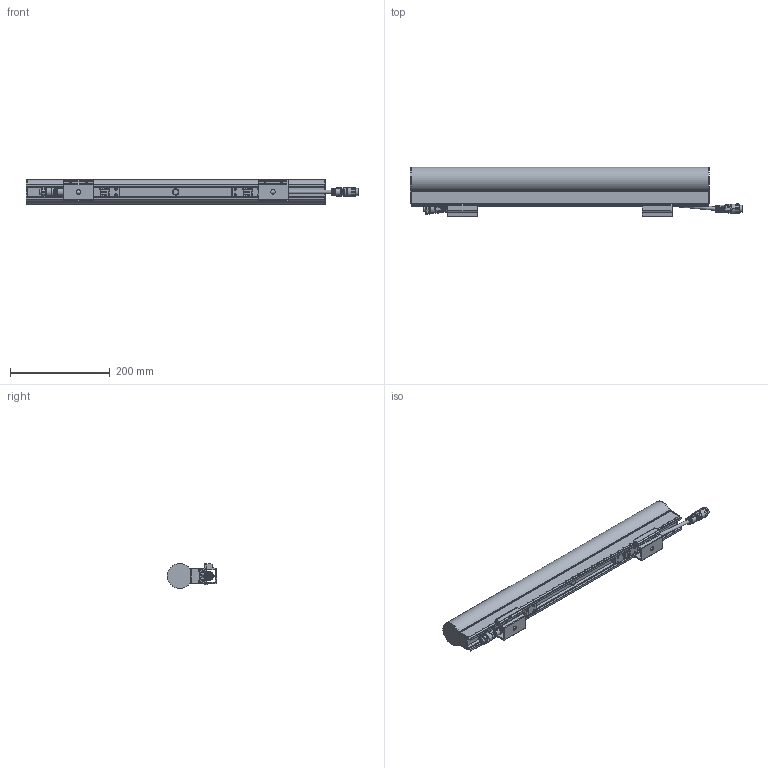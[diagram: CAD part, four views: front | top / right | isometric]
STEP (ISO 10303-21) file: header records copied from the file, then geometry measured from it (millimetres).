
FILE_DESCRIPTION (( 'STEP AP214' ), '1' );
FILE_NAME ('E series 2 Tube L600.STEP', '2025-11-24T13:40:27', ( '' ), ( '' ), 'SwSTEP 2.0', 'SolidWorks 2025', '' );
FILE_SCHEMA (( 'AUTOMOTIVE_DESIGN' ));
Length unit declared in the file: millimetre
Products named in the file (12): E series 2 with round cover body_600mm; Counter sunk screw torx_M3x16; M16 5p Female; Part2^E series 2; D & E Series 2 breathing valve; E series 2 with dome cover body and bare config_Bare 600mm; E series 2 Tube L600; Part1^E series 2; M16 5p Male; Counter sunk screw torx_M2.5x16; E series 2 mounting clip top; E series 2 mounting clip bottom
Assembly tree (27 placements, depth 2):
  E series 2 Tube L600
    E series 2 with dome cover body and bare config_Bare 600mm
    Counter sunk screw torx_M2.5x16  x12
    E series 2 mounting clip bottom  x2
    E series 2 mounting clip top  x2
    Counter sunk screw torx_M3x16  x4
    E series 2 with round cover body_600mm
    M16 5p Female
    Part2^E series 2
    M16 5p Male
    Part1^E series 2
    D & E Series 2 breathing valve
Bounding box: 665.55 x 98.61 x 49.96 mm (x, y, z)
Volume: 1613659.3 mm3; surface area: 230716.3 mm2
Topology: 33 solids, 36 shells, 1772 faces, 4411 edges, 2780 vertices
Faces by surface type: cylinder 742, plane 615, torus 141, bspline 130, cone 118, sphere 26
Full cylindrical faces by diameter (mm): 2.4 x2, 2.5 x12, 3 x4, 4.5 x12, 5.81 x4, 9.2 x1, 11.1 x1, 14.25 x1, 14.3 x1, 18 x1
Entity records: 61679 total; most frequent: CARTESIAN_POINT 20217, ORIENTED_EDGE 6964, DIRECTION 6588, EDGE_CURVE 3482, AXIS2_PLACEMENT_3D 2559, VERTEX_POINT 2204, EDGE_LOOP 1578, LINE 1470
